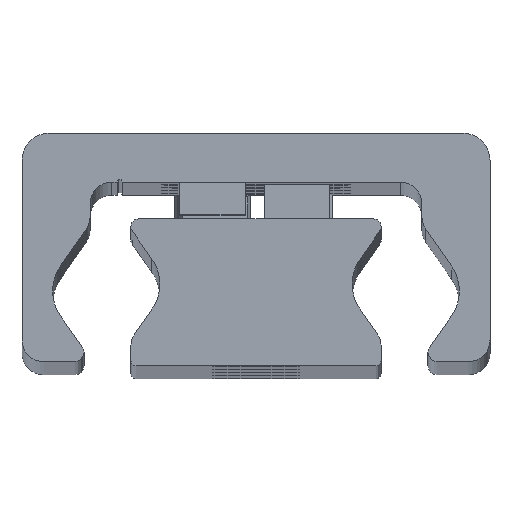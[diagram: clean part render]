
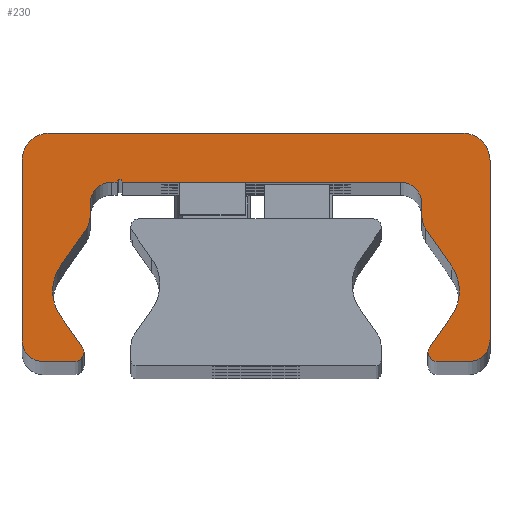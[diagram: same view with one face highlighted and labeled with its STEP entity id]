
A CAD part, top view. The second image highlights one B-rep face of the part: STEP entity #230.
In plain terms, the highlighted planar face has unit normal (0, 0, 1).
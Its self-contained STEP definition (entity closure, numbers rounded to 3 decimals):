
#230=ADVANCED_FACE('',(#604),#605,.T.);
#604=FACE_OUTER_BOUND('',#979,.T.);
#605=PLANE('',#980);
#979=EDGE_LOOP('',(#2258,#2259,#2260,#2261,#2262,#2263,#2264,#2265,#2266,#2267,#2268,#2269,#2270,#2271,#2272,#2273,#2274,#2275,#2276,#2277,#2278,#2279,#2280,#2281,#2282,#2283,#2284,#2285,#2286,#2287));
#980=AXIS2_PLACEMENT_3D('',#2288,#2289,#2290);
#2258=ORIENTED_EDGE('',*,*,#2549,.F.);
#2259=ORIENTED_EDGE('',*,*,#2742,.F.);
#2260=ORIENTED_EDGE('',*,*,#2535,.F.);
#2261=ORIENTED_EDGE('',*,*,#2741,.F.);
#2262=ORIENTED_EDGE('',*,*,#2737,.F.);
#2263=ORIENTED_EDGE('',*,*,#2734,.F.);
#2264=ORIENTED_EDGE('',*,*,#2731,.F.);
#2265=ORIENTED_EDGE('',*,*,#2728,.F.);
#2266=ORIENTED_EDGE('',*,*,#2725,.F.);
#2267=ORIENTED_EDGE('',*,*,#2722,.F.);
#2268=ORIENTED_EDGE('',*,*,#2719,.F.);
#2269=ORIENTED_EDGE('',*,*,#2716,.F.);
#2270=ORIENTED_EDGE('',*,*,#2713,.F.);
#2271=ORIENTED_EDGE('',*,*,#2710,.F.);
#2272=ORIENTED_EDGE('',*,*,#2541,.F.);
#2273=ORIENTED_EDGE('',*,*,#2708,.F.);
#2274=ORIENTED_EDGE('',*,*,#2543,.F.);
#2275=ORIENTED_EDGE('',*,*,#2707,.F.);
#2276=ORIENTED_EDGE('',*,*,#2703,.F.);
#2277=ORIENTED_EDGE('',*,*,#2700,.F.);
#2278=ORIENTED_EDGE('',*,*,#2697,.F.);
#2279=ORIENTED_EDGE('',*,*,#2694,.F.);
#2280=ORIENTED_EDGE('',*,*,#2691,.F.);
#2281=ORIENTED_EDGE('',*,*,#2688,.F.);
#2282=ORIENTED_EDGE('',*,*,#2685,.F.);
#2283=ORIENTED_EDGE('',*,*,#2682,.F.);
#2284=ORIENTED_EDGE('',*,*,#2679,.F.);
#2285=ORIENTED_EDGE('',*,*,#2676,.F.);
#2286=ORIENTED_EDGE('',*,*,#2673,.F.);
#2287=ORIENTED_EDGE('',*,*,#2670,.F.);
#2288=CARTESIAN_POINT('',(-0.023,14.187,327.0));
#2289=DIRECTION('',(0.0,0.0,1.0));
#2290=DIRECTION('',(1.0,0.0,0.0));
#2535=EDGE_CURVE('',#3082,#3085,#3086,.T.);
#2541=EDGE_CURVE('',#3095,#3091,#3097,.T.);
#2543=EDGE_CURVE('',#3098,#3101,#3102,.T.);
#2549=EDGE_CURVE('',#3111,#3107,#3113,.T.);
#2670=EDGE_CURVE('',#3107,#3308,#3309,.T.);
#2673=EDGE_CURVE('',#3308,#3313,#3314,.T.);
#2676=EDGE_CURVE('',#3313,#3318,#3319,.T.);
#2679=EDGE_CURVE('',#3318,#3323,#3324,.T.);
#2682=EDGE_CURVE('',#3323,#3328,#3329,.T.);
#2685=EDGE_CURVE('',#3328,#3333,#3334,.T.);
#2688=EDGE_CURVE('',#3333,#3338,#3339,.T.);
#2691=EDGE_CURVE('',#3338,#3343,#3344,.T.);
#2694=EDGE_CURVE('',#3343,#3348,#3349,.T.);
#2697=EDGE_CURVE('',#3348,#3353,#3354,.T.);
#2700=EDGE_CURVE('',#3353,#3358,#3359,.T.);
#2703=EDGE_CURVE('',#3358,#3363,#3364,.T.);
#2707=EDGE_CURVE('',#3363,#3098,#3369,.T.);
#2708=EDGE_CURVE('',#3101,#3095,#3370,.T.);
#2710=EDGE_CURVE('',#3091,#3372,#3373,.T.);
#2713=EDGE_CURVE('',#3372,#3377,#3378,.T.);
#2716=EDGE_CURVE('',#3377,#3382,#3383,.T.);
#2719=EDGE_CURVE('',#3382,#3387,#3388,.T.);
#2722=EDGE_CURVE('',#3387,#3392,#3393,.T.);
#2725=EDGE_CURVE('',#3392,#3397,#3398,.T.);
#2728=EDGE_CURVE('',#3397,#3402,#3403,.T.);
#2731=EDGE_CURVE('',#3402,#3407,#3408,.T.);
#2734=EDGE_CURVE('',#3407,#3412,#3413,.T.);
#2737=EDGE_CURVE('',#3412,#3417,#3418,.T.);
#2741=EDGE_CURVE('',#3417,#3082,#3423,.T.);
#2742=EDGE_CURVE('',#3085,#3111,#3424,.T.);
#3082=VERTEX_POINT('',#3878);
#3085=VERTEX_POINT('',#3882);
#3086=CIRCLE('',#3883,0.85);
#3091=VERTEX_POINT('',#3889);
#3095=VERTEX_POINT('',#3894);
#3097=CIRCLE('',#3897,0.85);
#3098=VERTEX_POINT('',#3898);
#3101=VERTEX_POINT('',#3902);
#3102=CIRCLE('',#3903,4.);
#3107=VERTEX_POINT('',#3909);
#3111=VERTEX_POINT('',#3914);
#3113=CIRCLE('',#3917,4.);
#3308=VERTEX_POINT('',#4174);
#3309=CIRCLE('',#4175,4.);
#3313=VERTEX_POINT('',#4180);
#3314=LINE('',#4181,#4182);
#3318=VERTEX_POINT('',#4188);
#3319=CIRCLE('',#4189,2.);
#3323=VERTEX_POINT('',#4194);
#3324=LINE('',#4195,#4196);
#3328=VERTEX_POINT('',#4202);
#3329=CIRCLE('',#4203,2.0);
#3333=VERTEX_POINT('',#4208);
#3334=LINE('',#4209,#4210);
#3338=VERTEX_POINT('',#4216);
#3339=CIRCLE('',#4217,0.25);
#3343=VERTEX_POINT('',#4222);
#3344=LINE('',#4223,#4224);
#3348=VERTEX_POINT('',#4230);
#3349=CIRCLE('',#4231,2.0);
#3353=VERTEX_POINT('',#4236);
#3354=LINE('',#4237,#4238);
#3358=VERTEX_POINT('',#4244);
#3359=CIRCLE('',#4245,2.0);
#3363=VERTEX_POINT('',#4250);
#3364=LINE('',#4251,#4252);
#3369=CIRCLE('',#4259,4.);
#3370=LINE('',#4260,#4261);
#3372=VERTEX_POINT('',#4264);
#3373=CIRCLE('',#4265,0.85);
#3377=VERTEX_POINT('',#4270);
#3378=LINE('',#4271,#4272);
#3382=VERTEX_POINT('',#4278);
#3383=CIRCLE('',#4279,2.);
#3387=VERTEX_POINT('',#4284);
#3388=LINE('',#4285,#4286);
#3392=VERTEX_POINT('',#4292);
#3393=CIRCLE('',#4293,2.5);
#3397=VERTEX_POINT('',#4298);
#3398=LINE('',#4299,#4300);
#3402=VERTEX_POINT('',#4306);
#3403=CIRCLE('',#4307,2.5);
#3407=VERTEX_POINT('',#4312);
#3408=LINE('',#4313,#4314);
#3412=VERTEX_POINT('',#4320);
#3413=CIRCLE('',#4321,2.);
#3417=VERTEX_POINT('',#4326);
#3418=LINE('',#4327,#4328);
#3423=CIRCLE('',#4335,0.85);
#3424=LINE('',#4336,#4337);
#3878=CARTESIAN_POINT('',(15.8,1.859,327.0));
#3882=CARTESIAN_POINT('',(15.922,2.298,327.0));
#3883=AXIS2_PLACEMENT_3D('',#4743,#4744,#4745);
#3889=CARTESIAN_POINT('',(-15.8,1.859,327.0));
#3894=CARTESIAN_POINT('',(-15.922,2.298,327.0));
#3897=AXIS2_PLACEMENT_3D('',#4755,#4756,#4757);
#3898=CARTESIAN_POINT('',(-18.688,7.509,327.0));
#3902=CARTESIAN_POINT('',(-17.964,5.214,327.0));
#3903=AXIS2_PLACEMENT_3D('',#4759,#4760,#4761);
#3909=CARTESIAN_POINT('',(18.688,7.509,327.0));
#3914=CARTESIAN_POINT('',(17.964,5.214,327.0));
#3917=AXIS2_PLACEMENT_3D('',#4771,#4772,#4773);
#4174=CARTESIAN_POINT('',(17.964,9.803,327.0));
#4175=AXIS2_PLACEMENT_3D('',#5010,#5011,#5012);
#4180=CARTESIAN_POINT('',(15.612,13.163,327.0));
#4181=CARTESIAN_POINT('',(15.612,13.163,327.0));
#4182=VECTOR('',#5017,1.0);
#4188=CARTESIAN_POINT('',(15.25,14.31,327.0));
#4189=AXIS2_PLACEMENT_3D('',#5020,#5021,#5022);
#4194=CARTESIAN_POINT('',(15.25,15.509,327.0));
#4195=CARTESIAN_POINT('',(15.25,15.509,327.0));
#4196=VECTOR('',#5027,1.0);
#4202=CARTESIAN_POINT('',(13.25,17.509,327.0));
#4203=AXIS2_PLACEMENT_3D('',#5030,#5031,#5032);
#4208=CARTESIAN_POINT('',(-12.25,17.509,327.0));
#4209=CARTESIAN_POINT('',(-12.25,17.509,327.0));
#4210=VECTOR('',#5037,1.0);
#4216=CARTESIAN_POINT('',(-12.75,17.509,327.0));
#4217=AXIS2_PLACEMENT_3D('',#5040,#5041,#5042);
#4222=CARTESIAN_POINT('',(-13.25,17.509,327.0));
#4223=CARTESIAN_POINT('',(-13.25,17.509,327.0));
#4224=VECTOR('',#5047,1.0);
#4230=CARTESIAN_POINT('',(-15.25,15.509,327.0));
#4231=AXIS2_PLACEMENT_3D('',#5050,#5051,#5052);
#4236=CARTESIAN_POINT('',(-15.25,14.31,327.0));
#4237=CARTESIAN_POINT('',(-15.25,14.31,327.0));
#4238=VECTOR('',#5057,1.0);
#4244=CARTESIAN_POINT('',(-15.612,13.163,327.0));
#4245=AXIS2_PLACEMENT_3D('',#5060,#5061,#5062);
#4250=CARTESIAN_POINT('',(-17.964,9.803,327.0));
#4251=CARTESIAN_POINT('',(-17.964,9.803,327.0));
#4252=VECTOR('',#5067,1.);
#4259=AXIS2_PLACEMENT_3D('',#5073,#5074,#5075);
#4260=CARTESIAN_POINT('',(-15.922,2.298,327.0));
#4261=VECTOR('',#5076,1.0);
#4264=CARTESIAN_POINT('',(-16.65,1.009,327.0));
#4265=AXIS2_PLACEMENT_3D('',#5078,#5079,#5080);
#4270=CARTESIAN_POINT('',(-19.5,1.009,327.0));
#4271=CARTESIAN_POINT('',(-19.5,1.009,327.0));
#4272=VECTOR('',#5085,1.0);
#4278=CARTESIAN_POINT('',(-21.5,3.009,327.0));
#4279=AXIS2_PLACEMENT_3D('',#5088,#5089,#5090);
#4284=CARTESIAN_POINT('',(-21.5,19.509,327.0));
#4285=CARTESIAN_POINT('',(-21.5,19.509,327.0));
#4286=VECTOR('',#5095,1.0);
#4292=CARTESIAN_POINT('',(-19.0,22.009,327.0));
#4293=AXIS2_PLACEMENT_3D('',#5098,#5099,#5100);
#4298=CARTESIAN_POINT('',(19.0,22.009,327.0));
#4299=CARTESIAN_POINT('',(19.0,22.009,327.0));
#4300=VECTOR('',#5105,1.0);
#4306=CARTESIAN_POINT('',(21.5,19.509,327.0));
#4307=AXIS2_PLACEMENT_3D('',#5108,#5109,#5110);
#4312=CARTESIAN_POINT('',(21.5,3.009,327.0));
#4313=CARTESIAN_POINT('',(21.5,3.009,327.0));
#4314=VECTOR('',#5115,1.0);
#4320=CARTESIAN_POINT('',(19.5,1.009,327.0));
#4321=AXIS2_PLACEMENT_3D('',#5118,#5119,#5120);
#4326=CARTESIAN_POINT('',(16.65,1.009,327.0));
#4327=CARTESIAN_POINT('',(16.65,1.009,327.0));
#4328=VECTOR('',#5125,1.0);
#4335=AXIS2_PLACEMENT_3D('',#5131,#5132,#5133);
#4336=CARTESIAN_POINT('',(17.964,5.214,327.0));
#4337=VECTOR('',#5134,1.0);
#4743=CARTESIAN_POINT('',(16.65,1.859,327.0));
#4744=DIRECTION('',(0.0,0.0,-1.0));
#4745=DIRECTION('',(1.0,0.0,0.0));
#4755=CARTESIAN_POINT('',(-16.65,1.859,327.0));
#4756=DIRECTION('',(0.0,0.0,-1.0));
#4757=DIRECTION('',(1.0,0.0,0.0));
#4759=CARTESIAN_POINT('',(-14.688,7.509,327.0));
#4760=DIRECTION('',(0.0,0.0,1.0));
#4761=DIRECTION('',(1.0,0.0,0.0));
#4771=CARTESIAN_POINT('',(14.688,7.509,327.0));
#4772=DIRECTION('',(0.0,0.0,1.0));
#4773=DIRECTION('',(1.0,0.0,0.0));
#5010=CARTESIAN_POINT('',(14.688,7.509,327.0));
#5011=DIRECTION('',(0.0,0.0,1.0));
#5012=DIRECTION('',(1.0,0.0,0.0));
#5017=DIRECTION('',(-0.574,0.819,0.0));
#5020=CARTESIAN_POINT('',(17.25,14.31,327.0));
#5021=DIRECTION('',(0.0,0.0,-1.0));
#5022=DIRECTION('',(1.0,0.0,0.0));
#5027=DIRECTION('',(0.0,1.0,0.0));
#5030=CARTESIAN_POINT('',(13.25,15.509,327.0));
#5031=DIRECTION('',(0.0,0.0,1.0));
#5032=DIRECTION('',(1.0,0.0,0.0));
#5037=DIRECTION('',(-1.0,-0.0,-0.0));
#5040=CARTESIAN_POINT('',(-12.5,17.509,327.0));
#5041=DIRECTION('',(0.0,0.0,1.0));
#5042=DIRECTION('',(1.0,0.0,0.0));
#5047=DIRECTION('',(-1.0,-0.0,-0.0));
#5050=CARTESIAN_POINT('',(-13.25,15.509,327.0));
#5051=DIRECTION('',(0.0,0.0,1.0));
#5052=DIRECTION('',(1.0,0.0,0.0));
#5057=DIRECTION('',(-0.0,-1.0,-0.0));
#5060=CARTESIAN_POINT('',(-17.25,14.31,327.0));
#5061=DIRECTION('',(0.0,0.0,-1.0));
#5062=DIRECTION('',(1.0,0.0,0.0));
#5067=DIRECTION('',(-0.574,-0.819,-0.0));
#5073=CARTESIAN_POINT('',(-14.688,7.509,327.0));
#5074=DIRECTION('',(0.0,0.0,1.0));
#5075=DIRECTION('',(1.0,0.0,0.0));
#5076=DIRECTION('',(0.574,-0.819,0.0));
#5078=CARTESIAN_POINT('',(-16.65,1.859,327.0));
#5079=DIRECTION('',(0.0,0.0,-1.0));
#5080=DIRECTION('',(1.0,0.0,0.0));
#5085=DIRECTION('',(-1.0,-0.0,-0.0));
#5088=CARTESIAN_POINT('',(-19.5,3.009,327.0));
#5089=DIRECTION('',(0.0,0.0,-1.0));
#5090=DIRECTION('',(1.0,0.0,0.0));
#5095=DIRECTION('',(0.0,1.0,0.0));
#5098=CARTESIAN_POINT('',(-19.0,19.509,327.0));
#5099=DIRECTION('',(0.0,0.0,-1.0));
#5100=DIRECTION('',(1.0,0.0,0.0));
#5105=DIRECTION('',(1.0,0.0,0.0));
#5108=CARTESIAN_POINT('',(19.0,19.509,327.0));
#5109=DIRECTION('',(0.0,0.0,-1.0));
#5110=DIRECTION('',(1.0,0.0,0.0));
#5115=DIRECTION('',(-0.0,-1.0,-0.0));
#5118=CARTESIAN_POINT('',(19.5,3.009,327.0));
#5119=DIRECTION('',(0.0,0.0,-1.0));
#5120=DIRECTION('',(1.0,0.0,0.0));
#5125=DIRECTION('',(-1.0,-0.0,-0.0));
#5131=CARTESIAN_POINT('',(16.65,1.859,327.0));
#5132=DIRECTION('',(0.0,0.0,-1.0));
#5133=DIRECTION('',(1.0,0.0,0.0));
#5134=DIRECTION('',(0.574,0.819,0.0));
